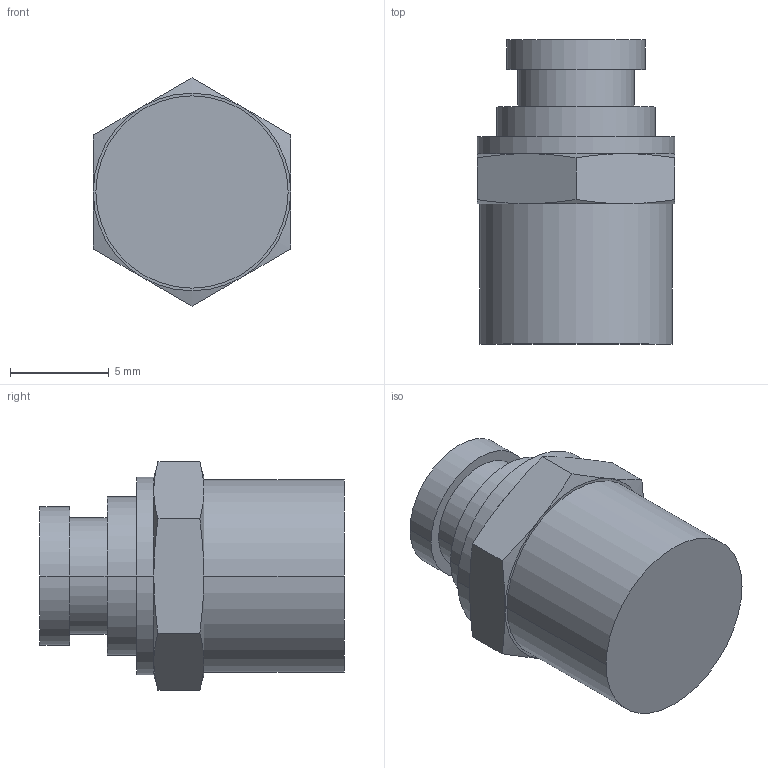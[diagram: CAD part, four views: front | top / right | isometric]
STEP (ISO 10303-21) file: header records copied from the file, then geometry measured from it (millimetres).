
FILE_DESCRIPTION( ( '' ), '1' );
FILE_NAME( 'G:/SMC狟婥/KQB2H23-01S.stp', '2023-03-07T02:21:29', ( '' ), ( '' ), ' ', ' ', ' ' );
FILE_SCHEMA( ( 'CONFIG_CONTROL_DESIGN' ) );
Length unit declared in the file: millimetre
Products named in the file (1): 1
Bounding box: 10 x 15.4 x 11.55 mm (x, y, z)
Volume: 902.7 mm3; surface area: 749.6 mm2
Topology: 1 solids, 1 shells, 37 faces, 76 edges, 46 vertices
Faces by surface type: plane 13, cylinder 12, cone 12
Entity records: 992 total; most frequent: CARTESIAN_POINT 208, DIRECTION 162, ORIENTED_EDGE 152, EDGE_CURVE 76, AXIS2_PLACEMENT_3D 72, VERTEX_POINT 46, EDGE_LOOP 42, ADVANCED_FACE 37
